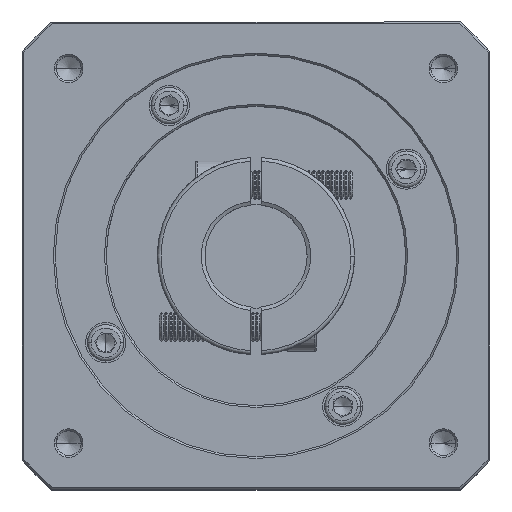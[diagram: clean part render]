
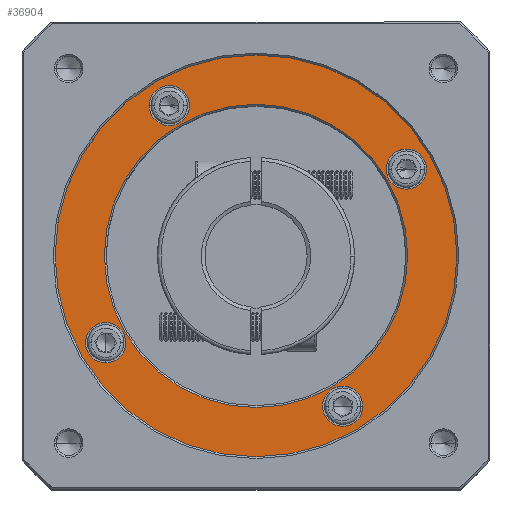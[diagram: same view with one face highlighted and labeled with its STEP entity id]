
A CAD part, top view. The second image highlights one B-rep face of the part: STEP entity #36904.
In plain terms, the highlighted planar face has unit normal (0, 0, 1).
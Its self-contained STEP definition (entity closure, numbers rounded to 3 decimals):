
#10 = DIRECTION ( 'NONE',  ( 1., 0., 0. ) ) ;
#84 = DIRECTION ( 'NONE',  ( 0., 0., -1. ) ) ;
#1709 = DIRECTION ( 'NONE',  ( 1., 0., 0. ) ) ;
#3186 = DIRECTION ( 'NONE',  ( 0., 0., -1. ) ) ;
#4297 = ORIENTED_EDGE ( 'NONE', *, *, #65847, .T. ) ;
#4899 = FACE_OUTER_BOUND ( 'NONE', #28376, .T. ) ;
#5136 = CARTESIAN_POINT ( 'NONE',  ( 24.796, 116.959, 56.837 ) ) ;
#9308 = ORIENTED_EDGE ( 'NONE', *, *, #74152, .T. ) ;
#10675 = EDGE_CURVE ( 'NONE', #110832, #61299, #90200, .T. ) ;
#11572 = CARTESIAN_POINT ( 'NONE',  ( 84.183, 99.573, 56.837 ) ) ;
#11959 = CARTESIAN_POINT ( 'NONE',  ( 107.069, 164.459, 56.837 ) ) ;
#11983 = AXIS2_PLACEMENT_3D ( 'NONE', #75770, #115574, #47927 ) ;
#14586 = VERTEX_POINT ( 'NONE', #26911 ) ;
#14971 = AXIS2_PLACEMENT_3D ( 'NONE', #117208, #78664, #10 ) ;
#15013 = CARTESIAN_POINT ( 'NONE',  ( 96.069, 164.459, 56.837 ) ) ;
#15030 = DIRECTION ( 'NONE',  ( 0., 0., -1. ) ) ;
#17557 = ORIENTED_EDGE ( 'NONE', *, *, #95247, .T. ) ;
#18311 = DIRECTION ( 'NONE',  ( 1., 0., 0. ) ) ;
#21105 = ORIENTED_EDGE ( 'NONE', *, *, #36488, .T. ) ;
#21518 = EDGE_CURVE ( 'NONE', #30239, #70283, #29329, .T. ) ;
#21872 = DIRECTION ( 'NONE',  ( 0., 0., -1. ) ) ;
#23351 = VERTEX_POINT ( 'NONE', #98426 ) ;
#24891 = CIRCLE ( 'NONE', #72394, 55. ) ;
#25257 = ORIENTED_EDGE ( 'NONE', *, *, #10675, .T. ) ;
#25292 = AXIS2_PLACEMENT_3D ( 'NONE', #111615, #63643, #72674 ) ;
#26911 = CARTESIAN_POINT ( 'NONE',  ( 115.433, 140.709, 56.837 ) ) ;
#27169 = ORIENTED_EDGE ( 'NONE', *, *, #27765, .T. ) ;
#27728 = DIRECTION ( 'NONE',  ( 1., 0., 0. ) ) ;
#27765 = EDGE_CURVE ( 'NONE', #61299, #110832, #108702, .T. ) ;
#28376 = EDGE_LOOP ( 'NONE', ( #17557, #39112 ) ) ;
#29123 = DIRECTION ( 'NONE',  ( 1., 0., 0. ) ) ;
#29321 = EDGE_LOOP ( 'NONE', ( #21105, #42611 ) ) ;
#29329 = CIRCLE ( 'NONE', #11983, 5.5 ) ;
#30239 = VERTEX_POINT ( 'NONE', #5136 ) ;
#30886 = AXIS2_PLACEMENT_3D ( 'NONE', #63688, #15030, #93977 ) ;
#31592 = AXIS2_PLACEMENT_3D ( 'NONE', #51047, #3186, #91175 ) ;
#32559 = EDGE_CURVE ( 'NONE', #70283, #30239, #120192, .T. ) ;
#32828 = VERTEX_POINT ( 'NONE', #33371 ) ;
#33371 = CARTESIAN_POINT ( 'NONE',  ( 42.183, 181.846, 56.837 ) ) ;
#33665 = AXIS2_PLACEMENT_3D ( 'NONE', #48252, #116762, #29123 ) ;
#35247 = CIRCLE ( 'NONE', #88116, 5.5 ) ;
#36488 = EDGE_CURVE ( 'NONE', #32828, #49495, #38701, .T. ) ;
#36904 = ADVANCED_FACE ( 'NONE', ( #4899, #67528, #82850, #122768, #96566, #64454 ), #115753, .T. ) ;
#38701 = CIRCLE ( 'NONE', #33665, 5.5 ) ;
#39095 = ORIENTED_EDGE ( 'NONE', *, *, #99330, .T. ) ;
#39112 = ORIENTED_EDGE ( 'NONE', *, *, #108688, .T. ) ;
#41869 = DIRECTION ( 'NONE',  ( 0., 0., 1. ) ) ;
#42611 = ORIENTED_EDGE ( 'NONE', *, *, #89950, .T. ) ;
#45215 = ORIENTED_EDGE ( 'NONE', *, *, #80992, .T. ) ;
#46148 = AXIS2_PLACEMENT_3D ( 'NONE', #91349, #101235, #70923 ) ;
#46732 = AXIS2_PLACEMENT_3D ( 'NONE', #55822, #114913, #27728 ) ;
#47927 = DIRECTION ( 'NONE',  ( 1., 0., 0. ) ) ;
#48252 = CARTESIAN_POINT ( 'NONE',  ( 36.683, 181.846, 56.837 ) ) ;
#49495 = VERTEX_POINT ( 'NONE', #57986 ) ;
#49989 = CARTESIAN_POINT ( 'NONE',  ( 60.433, 140.709, 56.837 ) ) ;
#51047 = CARTESIAN_POINT ( 'NONE',  ( 101.569, 164.459, 56.837 ) ) ;
#52967 = EDGE_LOOP ( 'NONE', ( #4297, #39095 ) ) ;
#55822 = CARTESIAN_POINT ( 'NONE',  ( 60.433, 140.709, 56.837 ) ) ;
#56636 = EDGE_LOOP ( 'NONE', ( #102293, #90962 ) ) ;
#57986 = CARTESIAN_POINT ( 'NONE',  ( 31.183, 181.846, 56.837 ) ) ;
#58263 = VERTEX_POINT ( 'NONE', #88376 ) ;
#58738 = CIRCLE ( 'NONE', #46148, 55. ) ;
#59109 = CIRCLE ( 'NONE', #111993, 41.5 ) ;
#59816 = VERTEX_POINT ( 'NONE', #78608 ) ;
#61299 = VERTEX_POINT ( 'NONE', #11959 ) ;
#63643 = DIRECTION ( 'NONE',  ( 0., 0., -1. ) ) ;
#63688 = CARTESIAN_POINT ( 'NONE',  ( 101.569, 164.459, 56.837 ) ) ;
#64454 = FACE_BOUND ( 'NONE', #56636, .T. ) ;
#65847 = EDGE_CURVE ( 'NONE', #59816, #71838, #59109, .T. ) ;
#67528 = FACE_BOUND ( 'NONE', #52967, .T. ) ;
#70283 = VERTEX_POINT ( 'NONE', #119932 ) ;
#70923 = DIRECTION ( 'NONE',  ( 1., 0., 0. ) ) ;
#71838 = VERTEX_POINT ( 'NONE', #90659 ) ;
#72394 = AXIS2_PLACEMENT_3D ( 'NONE', #49989, #41869, #1709 ) ;
#72674 = DIRECTION ( 'NONE',  ( 1., 0., 0. ) ) ;
#73800 = DIRECTION ( 'NONE',  ( 0., 0., -1. ) ) ;
#74152 = EDGE_CURVE ( 'NONE', #58263, #115745, #93525, .T. ) ;
#75770 = CARTESIAN_POINT ( 'NONE',  ( 19.296, 116.959, 56.837 ) ) ;
#78332 = DIRECTION ( 'NONE',  ( 1., 0., 0. ) ) ;
#78608 = CARTESIAN_POINT ( 'NONE',  ( 101.933, 140.709, 56.837 ) ) ;
#78664 = DIRECTION ( 'NONE',  ( 0., 0., -1. ) ) ;
#80992 = EDGE_CURVE ( 'NONE', #115745, #58263, #85665, .T. ) ;
#82850 = FACE_BOUND ( 'NONE', #117511, .T. ) ;
#83642 = EDGE_LOOP ( 'NONE', ( #45215, #9308 ) ) ;
#84428 = CARTESIAN_POINT ( 'NONE',  ( 36.683, 181.846, 56.837 ) ) ;
#85665 = CIRCLE ( 'NONE', #14971, 5.5 ) ;
#88116 = AXIS2_PLACEMENT_3D ( 'NONE', #84428, #73800, #94197 ) ;
#88376 = CARTESIAN_POINT ( 'NONE',  ( 78.683, 99.573, 56.837 ) ) ;
#89950 = EDGE_CURVE ( 'NONE', #49495, #32828, #35247, .T. ) ;
#90133 = DIRECTION ( 'NONE',  ( 1., 0., 0. ) ) ;
#90200 = CIRCLE ( 'NONE', #30886, 5.5 ) ;
#90659 = CARTESIAN_POINT ( 'NONE',  ( 18.933, 140.709, 56.837 ) ) ;
#90962 = ORIENTED_EDGE ( 'NONE', *, *, #32559, .T. ) ;
#91175 = DIRECTION ( 'NONE',  ( 1., 0., 0. ) ) ;
#91349 = CARTESIAN_POINT ( 'NONE',  ( 60.433, 140.709, 56.837 ) ) ;
#93525 = CIRCLE ( 'NONE', #126279, 5.5 ) ;
#93977 = DIRECTION ( 'NONE',  ( 1., 0., 0. ) ) ;
#94197 = DIRECTION ( 'NONE',  ( 1., 0., 0. ) ) ;
#95247 = EDGE_CURVE ( 'NONE', #14586, #23351, #58738, .T. ) ;
#96566 = FACE_BOUND ( 'NONE', #29321, .T. ) ;
#98426 = CARTESIAN_POINT ( 'NONE',  ( 5.433, 140.709, 56.837 ) ) ;
#99330 = EDGE_CURVE ( 'NONE', #71838, #59816, #109572, .T. ) ;
#101235 = DIRECTION ( 'NONE',  ( 0., 0., 1. ) ) ;
#102293 = ORIENTED_EDGE ( 'NONE', *, *, #21518, .T. ) ;
#108688 = EDGE_CURVE ( 'NONE', #23351, #14586, #24891, .T. ) ;
#108702 = CIRCLE ( 'NONE', #31592, 5.5 ) ;
#109572 = CIRCLE ( 'NONE', #25292, 41.5 ) ;
#110832 = VERTEX_POINT ( 'NONE', #15013 ) ;
#111615 = CARTESIAN_POINT ( 'NONE',  ( 60.433, 140.709, 56.837 ) ) ;
#111993 = AXIS2_PLACEMENT_3D ( 'NONE', #115394, #125273, #18311 ) ;
#114913 = DIRECTION ( 'NONE',  ( 0., 0., 1. ) ) ;
#115394 = CARTESIAN_POINT ( 'NONE',  ( 60.433, 140.709, 56.837 ) ) ;
#115574 = DIRECTION ( 'NONE',  ( 0., 0., -1. ) ) ;
#115745 = VERTEX_POINT ( 'NONE', #120690 ) ;
#115753 = PLANE ( 'NONE',  #46732 ) ;
#116762 = DIRECTION ( 'NONE',  ( 0., 0., -1. ) ) ;
#117208 = CARTESIAN_POINT ( 'NONE',  ( 84.183, 99.573, 56.837 ) ) ;
#117511 = EDGE_LOOP ( 'NONE', ( #27169, #25257 ) ) ;
#119932 = CARTESIAN_POINT ( 'NONE',  ( 13.796, 116.959, 56.837 ) ) ;
#120192 = CIRCLE ( 'NONE', #120830, 5.5 ) ;
#120690 = CARTESIAN_POINT ( 'NONE',  ( 89.683, 99.573, 56.837 ) ) ;
#120830 = AXIS2_PLACEMENT_3D ( 'NONE', #126346, #84, #78332 ) ;
#122768 = FACE_BOUND ( 'NONE', #83642, .T. ) ;
#125273 = DIRECTION ( 'NONE',  ( 0., 0., -1. ) ) ;
#126279 = AXIS2_PLACEMENT_3D ( 'NONE', #11572, #21872, #90133 ) ;
#126346 = CARTESIAN_POINT ( 'NONE',  ( 19.296, 116.959, 56.837 ) ) ;
